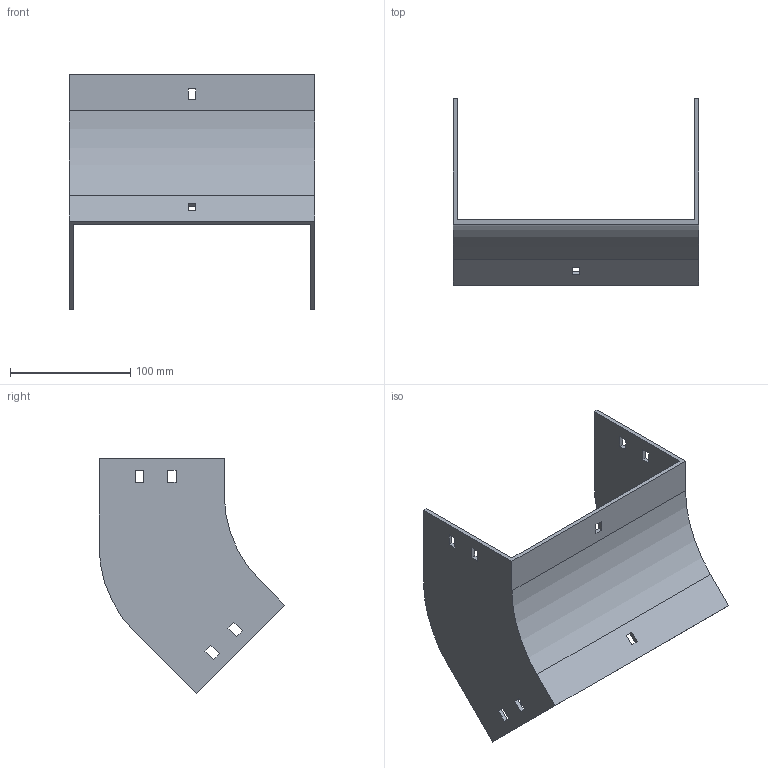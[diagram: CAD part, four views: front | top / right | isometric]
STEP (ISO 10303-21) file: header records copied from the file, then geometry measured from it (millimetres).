
FILE_DESCRIPTION (( 'STEP AP214' ), '1' );
FILE_NAME ('34F1D200.step', '2025-02-21T12:50:22', ( '' ), ( '' ), 'SwSTEP 2.0', 'SolidWorks 2023', '' );
FILE_SCHEMA (( 'AUTOMOTIVE_DESIGN' ));
Length unit declared in the file: millimetre
Products named in the file (1): 34F1D200
Bounding box: 204 x 154.5 x 195.46 mm (x, y, z)
Volume: 229451.8 mm3; surface area: 136682.6 mm2
Topology: 1 solids, 1 shells, 58 faces, 168 edges, 112 vertices
Faces by surface type: plane 54, cylinder 4
Entity records: 1943 total; most frequent: CARTESIAN_POINT 339, ORIENTED_EDGE 336, DIRECTION 294, EDGE_CURVE 168, VECTOR 160, LINE 160, VERTEX_POINT 112, EDGE_LOOP 78
